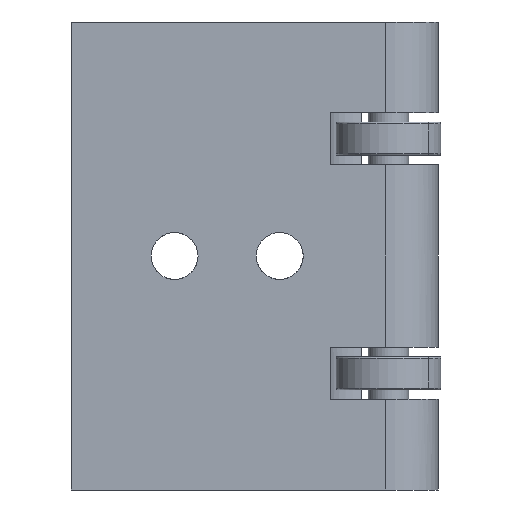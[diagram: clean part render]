
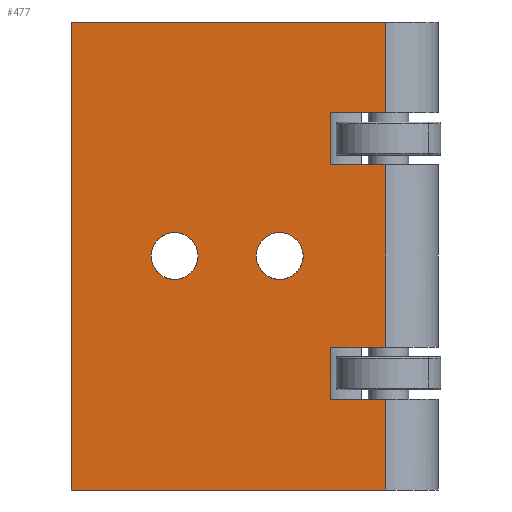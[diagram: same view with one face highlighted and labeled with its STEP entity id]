
A CAD part, front view. The second image highlights one B-rep face of the part: STEP entity #477.
In plain terms, the highlighted planar face has unit normal (0, -1, 0).
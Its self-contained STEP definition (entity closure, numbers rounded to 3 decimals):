
#101=CARTESIAN_POINT('Vertex',(47.,0.,26.)) ;
#104=CARTESIAN_POINT('Line Origine',(47.,0.,21.25)) ;
#108=CARTESIAN_POINT('Vertex',(47.,0.,16.5)) ;
#139=CARTESIAN_POINT('Vertex',(57.,0.,26.)) ;
#142=CARTESIAN_POINT('Line Origine',(52.,0.,26.)) ;
#302=CARTESIAN_POINT('Line Origine',(52.,0.,16.5)) ;
#306=CARTESIAN_POINT('Vertex',(57.,0.,16.5)) ;
#361=CARTESIAN_POINT('Axis2P3D Location',(0.,0.,0.)) ;
#366=CARTESIAN_POINT('Line Origine',(57.,0.,0.)) ;
#370=CARTESIAN_POINT('Vertex',(57.,0.,-16.5)) ;
#373=CARTESIAN_POINT('Line Origine',(57.,0.,34.2)) ;
#377=CARTESIAN_POINT('Vertex',(57.,0.,42.4)) ;
#380=CARTESIAN_POINT('Line Origine',(28.5,0.,42.4)) ;
#384=CARTESIAN_POINT('Vertex',(0.,0.,42.4)) ;
#387=CARTESIAN_POINT('Line Origine',(0.,0.,0.)) ;
#391=CARTESIAN_POINT('Vertex',(0.,0.,-42.4)) ;
#394=CARTESIAN_POINT('Line Origine',(28.5,0.,-42.4)) ;
#398=CARTESIAN_POINT('Vertex',(57.,0.,-42.4)) ;
#401=CARTESIAN_POINT('Line Origine',(57.,0.,-34.2)) ;
#405=CARTESIAN_POINT('Vertex',(57.,0.,-26.)) ;
#408=CARTESIAN_POINT('Line Origine',(52.,0.,-26.)) ;
#412=CARTESIAN_POINT('Vertex',(47.,0.,-26.)) ;
#415=CARTESIAN_POINT('Line Origine',(47.,0.,-21.25)) ;
#419=CARTESIAN_POINT('Vertex',(47.,0.,-16.5)) ;
#422=CARTESIAN_POINT('Line Origine',(52.,0.,-16.5)) ;
#441=CARTESIAN_POINT('Axis2P3D Location',(18.75,0.,0.)) ;
#445=CARTESIAN_POINT('Vertex',(23.,0.,0.)) ;
#447=CARTESIAN_POINT('Vertex',(14.5,0.,0.)) ;
#450=CARTESIAN_POINT('Axis2P3D Location',(18.75,0.,0.)) ;
#459=CARTESIAN_POINT('Axis2P3D Location',(37.8,0.,0.)) ;
#463=CARTESIAN_POINT('Vertex',(42.05,0.,0.)) ;
#465=CARTESIAN_POINT('Vertex',(33.55,0.,0.)) ;
#468=CARTESIAN_POINT('Axis2P3D Location',(37.8,0.,0.)) ;
#105=DIRECTION('Vector Direction',(0.,0.,1.)) ;
#143=DIRECTION('Vector Direction',(-1.,0.,0.)) ;
#303=DIRECTION('Vector Direction',(-1.,0.,0.)) ;
#362=DIRECTION('Axis2P3D Direction',(0.,-1.,0.)) ;
#363=DIRECTION('Axis2P3D XDirection',(0.,0.,-1.)) ;
#367=DIRECTION('Vector Direction',(0.,0.,1.)) ;
#374=DIRECTION('Vector Direction',(0.,0.,1.)) ;
#381=DIRECTION('Vector Direction',(1.,0.,0.)) ;
#388=DIRECTION('Vector Direction',(0.,0.,1.)) ;
#395=DIRECTION('Vector Direction',(1.,0.,0.)) ;
#402=DIRECTION('Vector Direction',(0.,0.,1.)) ;
#409=DIRECTION('Vector Direction',(-1.,0.,0.)) ;
#416=DIRECTION('Vector Direction',(0.,0.,1.)) ;
#423=DIRECTION('Vector Direction',(-1.,0.,0.)) ;
#442=DIRECTION('Axis2P3D Direction',(0.,-1.,0.)) ;
#451=DIRECTION('Axis2P3D Direction',(0.,-1.,0.)) ;
#460=DIRECTION('Axis2P3D Direction',(0.,-1.,0.)) ;
#469=DIRECTION('Axis2P3D Direction',(0.,-1.,0.)) ;
#364=AXIS2_PLACEMENT_3D('Plane Axis2P3D',#361,#362,#363) ;
#443=AXIS2_PLACEMENT_3D('Circle Axis2P3D',#441,#442,$) ;
#452=AXIS2_PLACEMENT_3D('Circle Axis2P3D',#450,#451,$) ;
#461=AXIS2_PLACEMENT_3D('Circle Axis2P3D',#459,#460,$) ;
#470=AXIS2_PLACEMENT_3D('Circle Axis2P3D',#468,#469,$) ;
#428=ORIENTED_EDGE('',*,*,#372,.T.) ;
#429=ORIENTED_EDGE('',*,*,#308,.T.) ;
#430=ORIENTED_EDGE('',*,*,#110,.T.) ;
#431=ORIENTED_EDGE('',*,*,#146,.F.) ;
#432=ORIENTED_EDGE('',*,*,#379,.T.) ;
#433=ORIENTED_EDGE('',*,*,#386,.F.) ;
#434=ORIENTED_EDGE('',*,*,#393,.F.) ;
#435=ORIENTED_EDGE('',*,*,#400,.T.) ;
#436=ORIENTED_EDGE('',*,*,#407,.T.) ;
#437=ORIENTED_EDGE('',*,*,#414,.T.) ;
#438=ORIENTED_EDGE('',*,*,#421,.T.) ;
#439=ORIENTED_EDGE('',*,*,#426,.F.) ;
#456=ORIENTED_EDGE('',*,*,#449,.F.) ;
#457=ORIENTED_EDGE('',*,*,#454,.F.) ;
#474=ORIENTED_EDGE('',*,*,#467,.F.) ;
#475=ORIENTED_EDGE('',*,*,#472,.F.) ;
#458=FACE_BOUND('',#455,.T.) ;
#476=FACE_BOUND('',#473,.T.) ;
#106=VECTOR('Line Direction',#105,1.) ;
#144=VECTOR('Line Direction',#143,1.) ;
#304=VECTOR('Line Direction',#303,1.) ;
#368=VECTOR('Line Direction',#367,1.) ;
#375=VECTOR('Line Direction',#374,1.) ;
#382=VECTOR('Line Direction',#381,1.) ;
#389=VECTOR('Line Direction',#388,1.) ;
#396=VECTOR('Line Direction',#395,1.) ;
#403=VECTOR('Line Direction',#402,1.) ;
#410=VECTOR('Line Direction',#409,1.) ;
#417=VECTOR('Line Direction',#416,1.) ;
#424=VECTOR('Line Direction',#423,1.) ;
#477=ADVANCED_FACE('1',(#440,#458,#476),#365,.T.) ;
#444=CIRCLE('generated circle',#443,4.25) ;
#453=CIRCLE('generated circle',#452,4.25) ;
#462=CIRCLE('generated circle',#461,4.25) ;
#471=CIRCLE('generated circle',#470,4.25) ;
#110=EDGE_CURVE('',#109,#102,#107,.T.) ;
#146=EDGE_CURVE('',#140,#102,#145,.T.) ;
#308=EDGE_CURVE('',#307,#109,#305,.T.) ;
#372=EDGE_CURVE('',#371,#307,#369,.T.) ;
#379=EDGE_CURVE('',#140,#378,#376,.T.) ;
#386=EDGE_CURVE('',#385,#378,#383,.T.) ;
#393=EDGE_CURVE('',#392,#385,#390,.T.) ;
#400=EDGE_CURVE('',#392,#399,#397,.T.) ;
#407=EDGE_CURVE('',#399,#406,#404,.T.) ;
#414=EDGE_CURVE('',#406,#413,#411,.T.) ;
#421=EDGE_CURVE('',#413,#420,#418,.T.) ;
#426=EDGE_CURVE('',#371,#420,#425,.T.) ;
#449=EDGE_CURVE('',#446,#448,#444,.T.) ;
#454=EDGE_CURVE('',#448,#446,#453,.T.) ;
#467=EDGE_CURVE('',#464,#466,#462,.T.) ;
#472=EDGE_CURVE('',#466,#464,#471,.T.) ;
#427=EDGE_LOOP('',(#428,#429,#430,#431,#432,#433,#434,#435,#436,#437,#438,#439)) ;
#455=EDGE_LOOP('',(#456,#457)) ;
#473=EDGE_LOOP('',(#474,#475)) ;
#440=FACE_OUTER_BOUND('',#427,.T.) ;
#107=LINE('Line',#104,#106) ;
#145=LINE('Line',#142,#144) ;
#305=LINE('Line',#302,#304) ;
#369=LINE('Line',#366,#368) ;
#376=LINE('Line',#373,#375) ;
#383=LINE('Line',#380,#382) ;
#390=LINE('Line',#387,#389) ;
#397=LINE('Line',#394,#396) ;
#404=LINE('Line',#401,#403) ;
#411=LINE('Line',#408,#410) ;
#418=LINE('Line',#415,#417) ;
#425=LINE('Line',#422,#424) ;
#365=PLANE('',#364) ;
#102=VERTEX_POINT('',#101) ;
#109=VERTEX_POINT('',#108) ;
#140=VERTEX_POINT('',#139) ;
#307=VERTEX_POINT('',#306) ;
#371=VERTEX_POINT('',#370) ;
#378=VERTEX_POINT('',#377) ;
#385=VERTEX_POINT('',#384) ;
#392=VERTEX_POINT('',#391) ;
#399=VERTEX_POINT('',#398) ;
#406=VERTEX_POINT('',#405) ;
#413=VERTEX_POINT('',#412) ;
#420=VERTEX_POINT('',#419) ;
#446=VERTEX_POINT('',#445) ;
#448=VERTEX_POINT('',#447) ;
#464=VERTEX_POINT('',#463) ;
#466=VERTEX_POINT('',#465) ;
